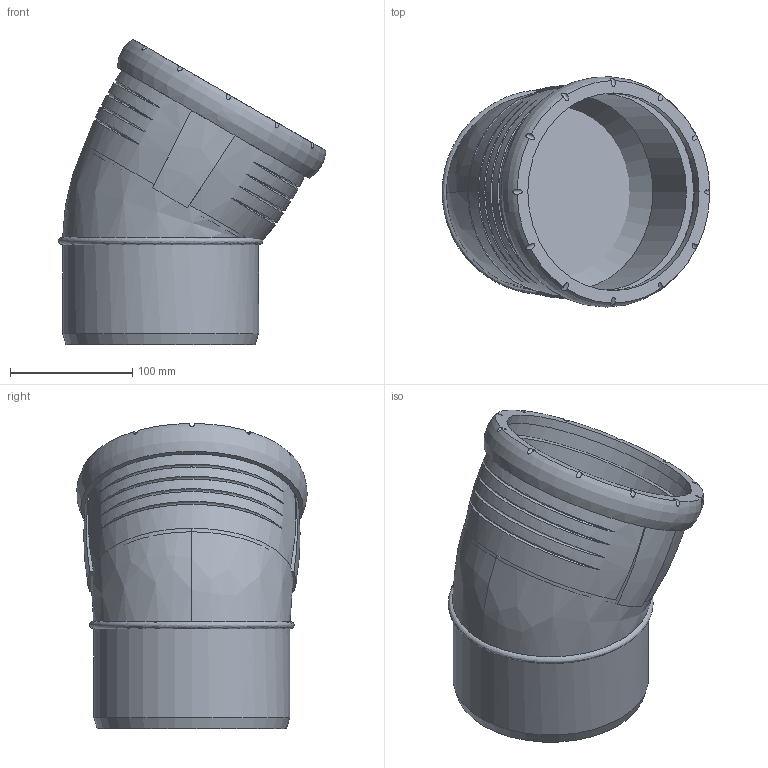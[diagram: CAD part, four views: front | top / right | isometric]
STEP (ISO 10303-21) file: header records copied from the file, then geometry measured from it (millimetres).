
FILE_DESCRIPTION(/* description */ (''),/* implementation_level */ '2;1');
FILE_NAME(/* name */ 'H:\Geberit-Teile\Export\Bogen_TEST\stp\393721.stp',/* time_stamp */ '2017-02-14T10:16:56+01:00',/* author */ ('seihe2'),/* organization */ (''),/* preprocessor_version */ 'ST-DEVELOPER v15.2',/* originating_system */ 'Autodesk Inventor 2014',/* authorisation */ '');
FILE_SCHEMA (('AUTOMOTIVE_DESIGN { 1 0 10303 214 3 1 1 }'));
Length unit declared in the file: millimetre
Products named in the file (1): 393721
Bounding box: 218.76 x 188.24 x 249.46 mm (x, y, z)
Volume: 1514991.8 mm3; surface area: 273486.3 mm2
Topology: 2 solids, 2 shells, 56 faces, 139 edges, 98 vertices
Faces by surface type: bspline 26, cylinder 19, plane 8, cone 2, torus 1
Full cylindrical faces by diameter (mm): 148.25 x1, 160.25 x1, 161.2 x1, 161.7 x1, 174.9 x1
Entity records: 4268 total; most frequent: CARTESIAN_POINT 3044, ORIENTED_EDGE 258, DIRECTION 180, EDGE_CURVE 128, VERTEX_POINT 95, AXIS2_PLACEMENT_3D 90, EDGE_LOOP 78, B_SPLINE_CURVE_WITH_KNOTS 69
